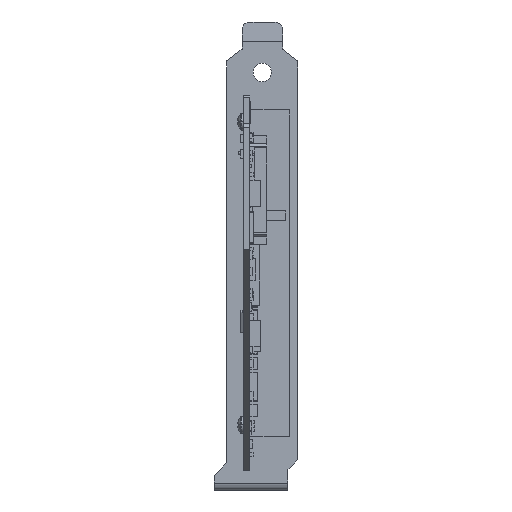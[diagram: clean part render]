
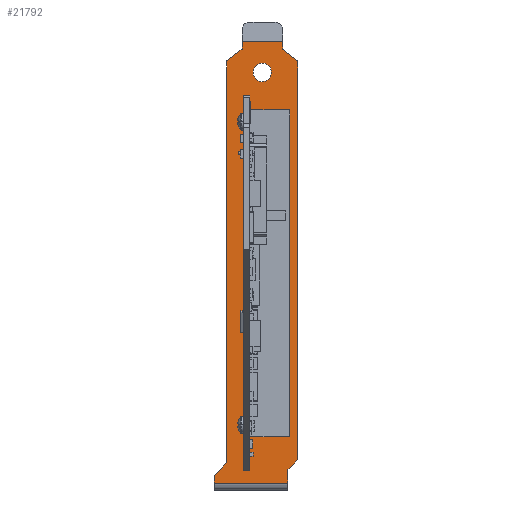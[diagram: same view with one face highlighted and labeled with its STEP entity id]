
A CAD part, front view. The second image highlights one B-rep face of the part: STEP entity #21792.
In plain terms, the highlighted planar face has unit normal (0, -1, 0).
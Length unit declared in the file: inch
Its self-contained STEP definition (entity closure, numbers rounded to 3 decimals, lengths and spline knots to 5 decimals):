
#4251=DIRECTION('',(0.,0.,1.));
#4252=VECTOR('',#4251,3.32);
#4253=CARTESIAN_POINT('',(0.062,0.336,-3.275));
#4254=LINE('',#4253,#4252);
#4259=DIRECTION('',(1.,0.,0.));
#4260=VECTOR('',#4259,0.406);
#4261=CARTESIAN_POINT('',(0.062,0.336,0.045));
#4262=LINE('',#4261,#4260);
#4263=DIRECTION('',(1.,0.,0.));
#4264=VECTOR('',#4263,0.412);
#4265=CARTESIAN_POINT('',(-0.01577,0.336,0.73798));
#4266=LINE('',#4265,#4264);
#4267=DIRECTION('',(0.,0.,-1.));
#4268=VECTOR('',#4267,0.074);
#4269=CARTESIAN_POINT('',(0.39623,0.336,0.73798));
#4270=LINE('',#4269,#4268);
#4271=DIRECTION('',(-0.788,0.,0.616));
#4272=VECTOR('',#4271,0.1967);
#4273=CARTESIAN_POINT('',(0.55123,0.336,0.54288));
#4274=LINE('',#4273,#4272);
#4275=DIRECTION('',(0.707,0.,0.707));
#4276=VECTOR('',#4275,0.14142);
#4277=CARTESIAN_POINT('',(0.45123,0.336,-3.60902));
#4278=LINE('',#4277,#4276);
#4279=DIRECTION('',(0.,0.,1.));
#4280=VECTOR('',#4279,0.137);
#4281=CARTESIAN_POINT('',(0.45123,0.336,-3.74602));
#4282=LINE('',#4281,#4280);
#4283=DIRECTION('',(-1.,0.,0.));
#4284=VECTOR('',#4283,0.75);
#4285=CARTESIAN_POINT('',(0.45123,0.336,-3.74602));
#4286=LINE('',#4285,#4284);
#4287=DIRECTION('',(-0.707,0.,-0.707));
#4288=VECTOR('',#4287,0.18102);
#4289=CARTESIAN_POINT('',(-0.17077,0.336,-3.54002));
#4290=LINE('',#4289,#4288);
#4291=DIRECTION('',(0.,0.,-1.));
#4292=VECTOR('',#4291,4.0829);
#4293=CARTESIAN_POINT('',(-0.17077,0.336,0.54288));
#4294=LINE('',#4293,#4292);
#4295=DIRECTION('',(-0.788,0.,-0.616));
#4296=VECTOR('',#4295,0.1967);
#4297=CARTESIAN_POINT('',(-0.01577,0.336,0.66398));
#4298=LINE('',#4297,#4296);
#4299=DIRECTION('',(0.,0.,-1.));
#4300=VECTOR('',#4299,0.074);
#4301=CARTESIAN_POINT('',(-0.01577,0.336,0.73798));
#4302=LINE('',#4301,#4300);
#4303=CARTESIAN_POINT('',(0.19023,0.336,0.42698));
#4304=DIRECTION('',(0.,1.,0.));
#4305=DIRECTION('',(0.,0.,1.));
#4306=AXIS2_PLACEMENT_3D('',#4303,#4304,#4305);
#4308=CARTESIAN_POINT('',(0.19023,0.336,0.42698));
#4309=DIRECTION('',(0.,1.,0.));
#4310=DIRECTION('',(0.,0.,-1.));
#4311=AXIS2_PLACEMENT_3D('',#4308,#4309,#4310);
#4359=DIRECTION('',(0.,0.,1.));
#4360=VECTOR('',#4359,0.078);
#4361=CARTESIAN_POINT('',(-0.29877,0.336,-3.74602));
#4362=LINE('',#4361,#4360);
#4735=DIRECTION('',(0.,0.,1.));
#4736=VECTOR('',#4735,4.0519);
#4737=CARTESIAN_POINT('',(0.55123,0.336,-3.50902));
#4738=LINE('',#4737,#4736);
#5323=DIRECTION('',(1.,0.,0.));
#5324=VECTOR('',#5323,0.406);
#5325=CARTESIAN_POINT('',(0.062,0.336,-3.275));
#5326=LINE('',#5325,#5324);
#5339=DIRECTION('',(0.,0.,-1.));
#5340=VECTOR('',#5339,3.32);
#5341=CARTESIAN_POINT('',(0.468,0.336,0.045));
#5342=LINE('',#5341,#5340);
#18652=CARTESIAN_POINT('',(-0.29877,0.336,-3.74602));
#18654=VERTEX_POINT('',#18652);
#18655=CARTESIAN_POINT('',(0.45123,0.336,-3.74602));
#18657=VERTEX_POINT('',#18655);
#18659=CARTESIAN_POINT('',(0.45123,0.336,-3.60902));
#18660=VERTEX_POINT('',#18659);
#18661=CARTESIAN_POINT('',(0.55123,0.336,-3.50902));
#18662=VERTEX_POINT('',#18661);
#18663=CARTESIAN_POINT('',(-0.01577,0.336,0.66398));
#18664=CARTESIAN_POINT('',(-0.17077,0.336,0.54288));
#18665=VERTEX_POINT('',#18663);
#18666=VERTEX_POINT('',#18664);
#18667=CARTESIAN_POINT('',(-0.17077,0.336,-3.54002));
#18668=VERTEX_POINT('',#18667);
#18669=CARTESIAN_POINT('',(-0.29877,0.336,-3.66802));
#18670=VERTEX_POINT('',#18669);
#18671=CARTESIAN_POINT('',(0.55123,0.336,0.54288));
#18672=CARTESIAN_POINT('',(0.39623,0.336,0.66398));
#18673=VERTEX_POINT('',#18671);
#18674=VERTEX_POINT('',#18672);
#18783=CARTESIAN_POINT('',(0.19023,0.336,0.52048));
#18784=CARTESIAN_POINT('',(0.19023,0.336,0.33348));
#18785=VERTEX_POINT('',#18783);
#18786=VERTEX_POINT('',#18784);
#18787=CARTESIAN_POINT('',(-0.01577,0.336,0.73798));
#18788=VERTEX_POINT('',#18787);
#18789=CARTESIAN_POINT('',(0.39623,0.336,0.73798));
#18790=VERTEX_POINT('',#18789);
#18815=CARTESIAN_POINT('',(0.062,0.336,-3.275));
#18816=CARTESIAN_POINT('',(0.062,0.336,0.045));
#18817=VERTEX_POINT('',#18815);
#18818=VERTEX_POINT('',#18816);
#18823=CARTESIAN_POINT('',(0.468,0.336,0.045));
#18824=CARTESIAN_POINT('',(0.468,0.336,-3.275));
#18825=VERTEX_POINT('',#18823);
#18826=VERTEX_POINT('',#18824);
#21747=CARTESIAN_POINT('',(0.55123,0.336,-3.74602));
#21748=DIRECTION('',(0.,1.,0.));
#21749=DIRECTION('',(0.,0.,1.));
#21750=AXIS2_PLACEMENT_3D('',#21747,#21748,#21749);
#21751=PLANE('',#21750);
#21753=ORIENTED_EDGE('',*,*,#21752,.T.);
#21755=ORIENTED_EDGE('',*,*,#21754,.T.);
#21757=ORIENTED_EDGE('',*,*,#21756,.F.);
#21759=ORIENTED_EDGE('',*,*,#21758,.F.);
#21761=ORIENTED_EDGE('',*,*,#21760,.F.);
#21763=ORIENTED_EDGE('',*,*,#21762,.F.);
#21765=ORIENTED_EDGE('',*,*,#21764,.T.);
#21767=ORIENTED_EDGE('',*,*,#21766,.T.);
#21769=ORIENTED_EDGE('',*,*,#21768,.F.);
#21771=ORIENTED_EDGE('',*,*,#21770,.F.);
#21773=ORIENTED_EDGE('',*,*,#21772,.F.);
#21775=ORIENTED_EDGE('',*,*,#21774,.F.);
#21776=EDGE_LOOP('',(#21753,#21755,#21757,#21759,#21761,#21763,#21765,#21767,
#21769,#21771,#21773,#21775));
#21777=FACE_OUTER_BOUND('',#21776,.F.);
#21779=ORIENTED_EDGE('',*,*,#21778,.F.);
#21781=ORIENTED_EDGE('',*,*,#21780,.F.);
#21782=EDGE_LOOP('',(#21779,#21781));
#21783=FACE_BOUND('',#21782,.F.);
#21784=ORIENTED_EDGE('',*,*,#21716,.F.);
#21786=ORIENTED_EDGE('',*,*,#21785,.T.);
#21788=ORIENTED_EDGE('',*,*,#21787,.F.);
#21789=ORIENTED_EDGE('',*,*,#21736,.F.);
#21790=EDGE_LOOP('',(#21784,#21786,#21788,#21789));
#21791=FACE_BOUND('',#21790,.F.);
#21792=ADVANCED_FACE('',(#21777,#21783,#21791),#21751,.F.);
#4307=CIRCLE('',#4306,0.0935);
#4312=CIRCLE('',#4311,0.0935);
#21716=EDGE_CURVE('',#18817,#18818,#4254,.T.);
#21736=EDGE_CURVE('',#18818,#18825,#4262,.T.);
#21752=EDGE_CURVE('',#18788,#18790,#4266,.T.);
#21754=EDGE_CURVE('',#18790,#18674,#4270,.T.);
#21756=EDGE_CURVE('',#18673,#18674,#4274,.T.);
#21758=EDGE_CURVE('',#18662,#18673,#4738,.T.);
#21760=EDGE_CURVE('',#18660,#18662,#4278,.T.);
#21762=EDGE_CURVE('',#18657,#18660,#4282,.T.);
#21764=EDGE_CURVE('',#18657,#18654,#4286,.T.);
#21766=EDGE_CURVE('',#18654,#18670,#4362,.T.);
#21768=EDGE_CURVE('',#18668,#18670,#4290,.T.);
#21770=EDGE_CURVE('',#18666,#18668,#4294,.T.);
#21772=EDGE_CURVE('',#18665,#18666,#4298,.T.);
#21774=EDGE_CURVE('',#18788,#18665,#4302,.T.);
#21778=EDGE_CURVE('',#18785,#18786,#4307,.T.);
#21780=EDGE_CURVE('',#18786,#18785,#4312,.T.);
#21785=EDGE_CURVE('',#18817,#18826,#5326,.T.);
#21787=EDGE_CURVE('',#18825,#18826,#5342,.T.);
